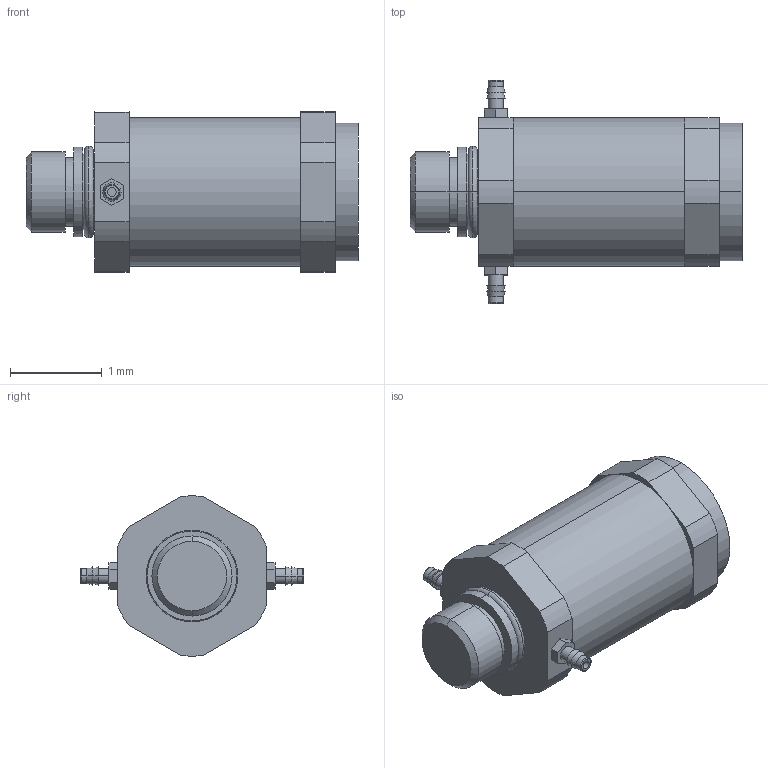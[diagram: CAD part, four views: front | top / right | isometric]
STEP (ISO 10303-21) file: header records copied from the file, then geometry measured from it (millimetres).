
FILE_DESCRIPTION((''),'2;1');
FILE_NAME('UFR4.stp','2017-11-07T11:29:33',(''),(''),'Mechanical Desktop 2011','Mechanical Desktop 2011',', , ');
FILE_SCHEMA(('CONFIG_CONTROL_DESIGN'));
Length unit declared in the file: millimetre
Products named in the file (1): Product
Bounding box: 3.62 x 2.44 x 1.75 mm (x, y, z)
Volume: 6.5 mm3; surface area: 36 mm2
Topology: 7 solids, 7 shells, 100 faces, 220 edges, 142 vertices
Faces by surface type: plane 46, cylinder 36, cone 10, torus 8
Entity records: 2869 total; most frequent: DIRECTION 524, CARTESIAN_POINT 463, ORIENTED_EDGE 440, EDGE_CURVE 220, AXIS2_PLACEMENT_3D 203, VERTEX_POINT 142, VECTOR 118, LINE 118
